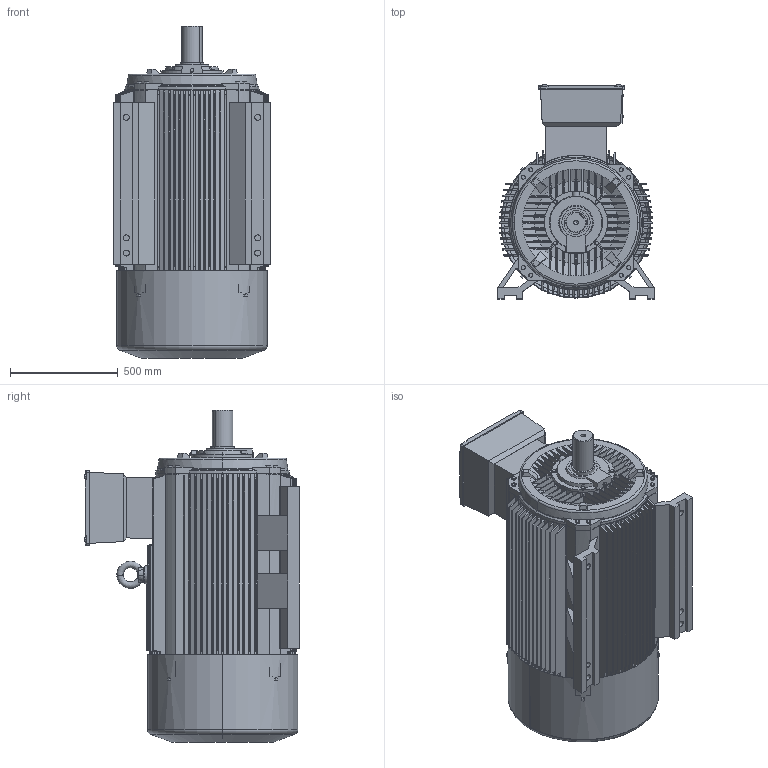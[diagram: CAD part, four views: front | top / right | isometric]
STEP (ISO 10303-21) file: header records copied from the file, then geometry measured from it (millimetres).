
FILE_DESCRIPTION (( 'STEP AP203' ), '1' );
FILE_NAME ('TE3-355-6,8 B3上.STEP', '2019-12-30T00:06:30', ( '微软用户' ), ( '微软中国' ), 'SwSTEP 2.0', 'SolidWorks 2012', '' );
FILE_SCHEMA (( 'CONFIG_CONTROL_DESIGN' ));
Products named in the file (14): TE3-355-6,8 B3奻; 蚐戚; hex head bolts-full thread grade c gb_GB_FASTENER_BOLT_HHBFTC M10X20-N; hex head bolts-full thread grade c gb_GB_FASTENER_BOLT_HHBFTC M12X30-N; eyebolts gb_GB_FASTENER_SCREWS_FRS M36-N; TE3-355諉盄碟; hex head bolts-full thread grade c gb_GB_FASTENER_BOLT_HHBFTC M12X25-N; 8EJ.353.10052（接线盒盖Y2-355）; FEJ.354.10243（接线盒座Y2-355 P24装热敏元件）; 8SLJ.306.00029（风罩YE3-355-4,6,8）; YE3-355-6,8P24 粣扥; Y2-355-4,6,8轴承外盖（轴伸）; Y2-355-4,6,8,10傷裔(粣扥); 8LY2.355.034.001（机座Y2-315ML）
Assembly tree (27 placements, depth 3):
  TE3-355-6,8 B3奻
    8LY2.355.034.001（机座Y2-315ML）
    Y2-355-4,6,8,10傷裔(粣扥)
    Y2-355-4,6,8轴承外盖（轴伸）
    YE3-355-6,8P24 粣扥
    8SLJ.306.00029（风罩YE3-355-4,6,8）
    TE3-355諉盄碟
      FEJ.354.10243（接线盒座Y2-355 P24装热敏元件）
      8EJ.353.10052（接线盒盖Y2-355）
      hex head bolts-full thread grade c gb_GB_FASTENER_BOLT_HHBFTC M12X25-N  x4
    eyebolts gb_GB_FASTENER_SCREWS_FRS M36-N
    hex head bolts-full thread grade c gb_GB_FASTENER_BOLT_HHBFTC M12X30-N  x8
    hex head bolts-full thread grade c gb_GB_FASTENER_BOLT_HHBFTC M10X20-N  x5
    蚐戚
Bounding box: 726 x 994.5 x 1541.41 mm (x, y, z)
Volume: 375853672.8 mm3; surface area: 12673860 mm2
Topology: 27 solids, 28 shells, 8300 faces, 22014 edges, 14621 vertices
Faces by surface type: plane 4462, cylinder 3317, cone 325, bspline 153, torus 41, sphere 2
Entity records: 298796 total; most frequent: CARTESIAN_POINT 92804, DIRECTION 42738, ORIENTED_EDGE 42710, EDGE_CURVE 21355, AXIS2_PLACEMENT_3D 14696, VERTEX_POINT 14226, VECTOR 13346, LINE 13346
